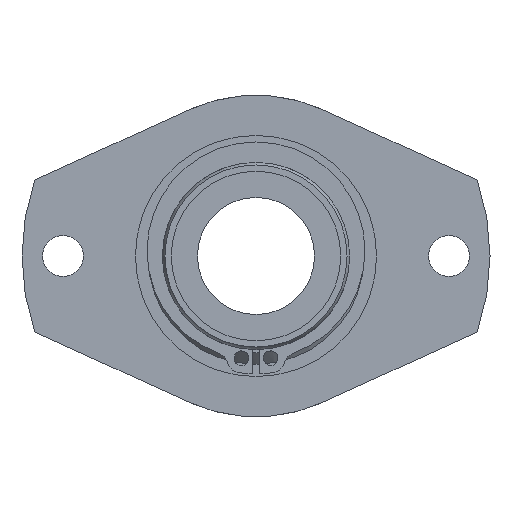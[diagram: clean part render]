
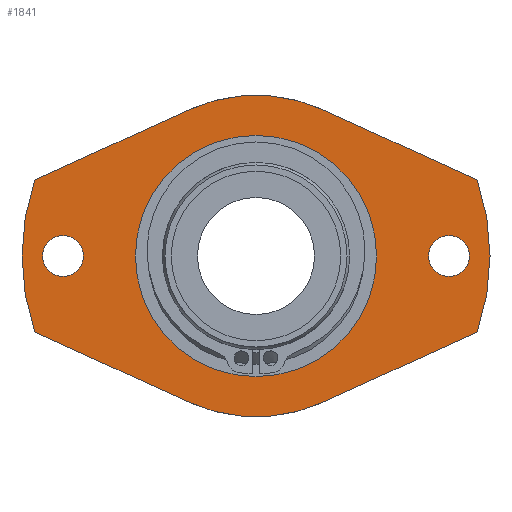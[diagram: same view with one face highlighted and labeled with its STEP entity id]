
A CAD part, left-side view. The second image highlights one B-rep face of the part: STEP entity #1841.
In plain terms, the highlighted planar face has unit normal (-1, 0, 0).
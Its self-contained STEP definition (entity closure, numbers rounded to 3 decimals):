
#1597=CARTESIAN_POINT('',(-9.,-36.5,0.));
#1598=VERTEX_POINT('',#1597);
#1599=CARTESIAN_POINT('',(-9.,-33.0,0.0));
#1600=DIRECTION('',(1.0,0.0,0.0));
#1601=DIRECTION('',(0.0,1.0,0.0));
#1602=AXIS2_PLACEMENT_3D('',#1599,#1600,#1601);
#1603=CIRCLE('',#1602,3.5);
#1604=EDGE_CURVE('',#1598,#1598,#1603,.T.);
#1646=CARTESIAN_POINT('',(-9.,29.5,0.));
#1647=VERTEX_POINT('',#1646);
#1648=CARTESIAN_POINT('',(-9.,33.0,0.0));
#1649=DIRECTION('',(1.0,0.0,0.0));
#1650=DIRECTION('',(0.0,1.0,0.0));
#1651=AXIS2_PLACEMENT_3D('',#1648,#1649,#1650);
#1652=CIRCLE('',#1651,3.5);
#1653=EDGE_CURVE('',#1647,#1647,#1652,.T.);
#1684=CARTESIAN_POINT('',(-9.0,11.404,-25.024));
#1685=VERTEX_POINT('',#1684);
#1692=CARTESIAN_POINT('',(-9.0,37.836,-12.978));
#1693=VERTEX_POINT('',#1692);
#1694=CARTESIAN_POINT('',(-9.0,11.404,-25.024));
#1695=DIRECTION('',(0.0,0.91,0.415));
#1696=VECTOR('',#1695,29.047);
#1697=LINE('',#1694,#1696);
#1698=EDGE_CURVE('',#1685,#1693,#1697,.T.);
#1724=CARTESIAN_POINT('',(-9.0,37.836,12.978));
#1725=VERTEX_POINT('',#1724);
#1726=CARTESIAN_POINT('',(-9.0,0.0,0.));
#1727=DIRECTION('',(1.0,0.0,0.0));
#1728=DIRECTION('',(0.0,1.0,0.0));
#1729=AXIS2_PLACEMENT_3D('',#1726,#1727,#1728);
#1730=CIRCLE('',#1729,40.0);
#1731=EDGE_CURVE('',#1693,#1725,#1730,.T.);
#1756=CARTESIAN_POINT('',(-9.0,11.404,25.024));
#1757=VERTEX_POINT('',#1756);
#1758=CARTESIAN_POINT('',(-9.0,37.836,12.978));
#1759=DIRECTION('',(0.0,-0.91,0.415));
#1760=VECTOR('',#1759,29.047);
#1761=LINE('',#1758,#1760);
#1762=EDGE_CURVE('',#1725,#1757,#1761,.T.);
#1773=CARTESIAN_POINT('',(-9.0,25.614,0.));
#1774=DIRECTION('',(1.0,0.0,0.0));
#1775=DIRECTION('',(0.0,0.0,-1.0));
#1776=AXIS2_PLACEMENT_3D('',#1773,#1774,#1775);
#1777=PLANE('',#1776);
#1778=ORIENTED_EDGE('',*,*,#1698,.F.);
#1779=CARTESIAN_POINT('',(-9.0,-11.404,-25.024));
#1780=VERTEX_POINT('',#1779);
#1781=CARTESIAN_POINT('',(-9.0,0.0,0.));
#1782=DIRECTION('',(1.0,0.0,0.0));
#1783=DIRECTION('',(0.0,1.0,0.0));
#1784=AXIS2_PLACEMENT_3D('',#1781,#1782,#1783);
#1785=CIRCLE('',#1784,27.5);
#1786=EDGE_CURVE('',#1780,#1685,#1785,.T.);
#1787=ORIENTED_EDGE('',*,*,#1786,.F.);
#1788=CARTESIAN_POINT('',(-9.0,-37.836,-12.978));
#1789=VERTEX_POINT('',#1788);
#1790=CARTESIAN_POINT('',(-9.0,-37.836,-12.978));
#1791=DIRECTION('',(0.0,0.91,-0.415));
#1792=VECTOR('',#1791,29.047);
#1793=LINE('',#1790,#1792);
#1794=EDGE_CURVE('',#1789,#1780,#1793,.T.);
#1795=ORIENTED_EDGE('',*,*,#1794,.F.);
#1796=CARTESIAN_POINT('',(-9.0,-37.836,12.978));
#1797=VERTEX_POINT('',#1796);
#1798=CARTESIAN_POINT('',(-9.0,0.0,0.));
#1799=DIRECTION('',(1.0,0.0,0.0));
#1800=DIRECTION('',(0.0,1.0,0.0));
#1801=AXIS2_PLACEMENT_3D('',#1798,#1799,#1800);
#1802=CIRCLE('',#1801,40.0);
#1803=EDGE_CURVE('',#1797,#1789,#1802,.T.);
#1804=ORIENTED_EDGE('',*,*,#1803,.F.);
#1805=CARTESIAN_POINT('',(-9.0,-11.404,25.024));
#1806=VERTEX_POINT('',#1805);
#1807=CARTESIAN_POINT('',(-9.0,-11.404,25.024));
#1808=DIRECTION('',(0.0,-0.91,-0.415));
#1809=VECTOR('',#1808,29.047);
#1810=LINE('',#1807,#1809);
#1811=EDGE_CURVE('',#1806,#1797,#1810,.T.);
#1812=ORIENTED_EDGE('',*,*,#1811,.F.);
#1813=CARTESIAN_POINT('',(-9.0,0.0,0.));
#1814=DIRECTION('',(1.0,0.0,0.0));
#1815=DIRECTION('',(0.0,1.0,0.0));
#1816=AXIS2_PLACEMENT_3D('',#1813,#1814,#1815);
#1817=CIRCLE('',#1816,27.5);
#1818=EDGE_CURVE('',#1757,#1806,#1817,.T.);
#1819=ORIENTED_EDGE('',*,*,#1818,.F.);
#1820=ORIENTED_EDGE('',*,*,#1762,.F.);
#1821=ORIENTED_EDGE('',*,*,#1731,.F.);
#1822=EDGE_LOOP('',(#1778,#1787,#1795,#1804,#1812,#1819,#1820,#1821));
#1823=FACE_OUTER_BOUND('',#1822,.T.);
#1824=ORIENTED_EDGE('',*,*,#1604,.T.);
#1825=EDGE_LOOP('',(#1824));
#1826=FACE_BOUND('',#1825,.T.);
#1827=ORIENTED_EDGE('',*,*,#1653,.T.);
#1828=EDGE_LOOP('',(#1827));
#1829=FACE_BOUND('',#1828,.T.);
#1830=CARTESIAN_POINT('',(-9.0,0.,20.622));
#1831=VERTEX_POINT('',#1830);
#1832=CARTESIAN_POINT('',(-9.0,0.0,0.0));
#1833=DIRECTION('',(1.0,0.0,0.0));
#1834=DIRECTION('',(0.0,0.0,-1.0));
#1835=AXIS2_PLACEMENT_3D('',#1832,#1833,#1834);
#1836=CIRCLE('',#1835,20.622);
#1837=EDGE_CURVE('',#1831,#1831,#1836,.T.);
#1838=ORIENTED_EDGE('',*,*,#1837,.T.);
#1839=EDGE_LOOP('',(#1838));
#1840=FACE_BOUND('',#1839,.T.);
#1841=ADVANCED_FACE('',(#1823,#1826,#1829,#1840),#1777,.F.);
